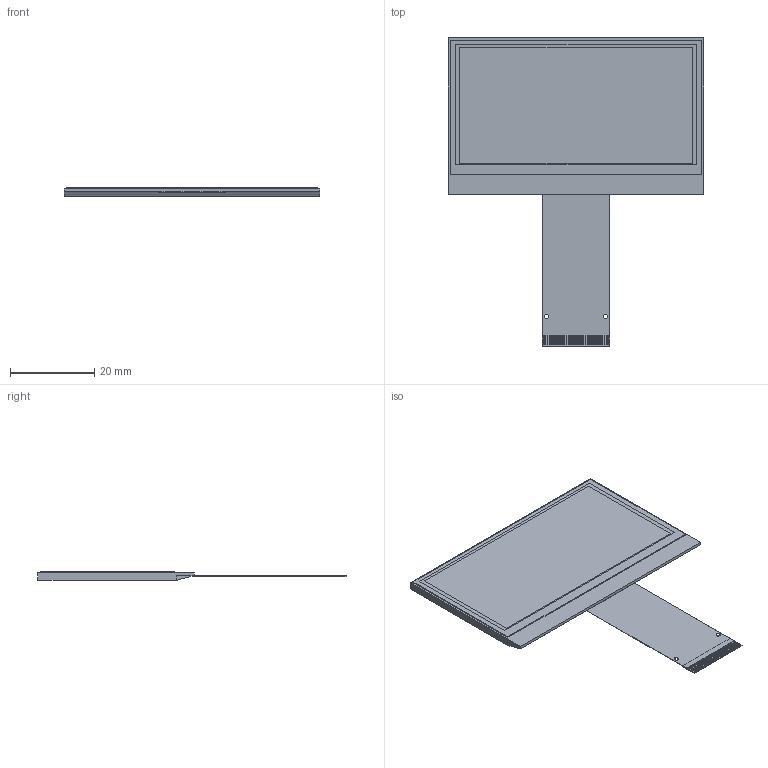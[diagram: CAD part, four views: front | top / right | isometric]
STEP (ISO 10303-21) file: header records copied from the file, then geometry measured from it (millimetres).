
FILE_DESCRIPTION (( 'STEP AP214' ), '1' );
FILE_NAME ('CFAL12864G.STEP', '2021-09-08T22:31:46', ( '' ), ( '' ), 'SwSTEP 2.0', 'SolidWorks 2021', '' );
FILE_SCHEMA (( 'AUTOMOTIVE_DESIGN' ));
Length unit declared in the file: millimetre
Products named in the file (1): CFAL12864G
Bounding box: 60.5 x 73 x 2.05 mm (x, y, z)
Volume: 4431.5 mm3; surface area: 6627 mm2
Topology: 2 solids, 2 shells, 156 faces, 453 edges, 304 vertices
Faces by surface type: plane 152, cylinder 4
Entity records: 6633 total; most frequent: CARTESIAN_POINT 914, ORIENTED_EDGE 906, DIRECTION 775, EDGE_CURVE 453, VECTOR 445, LINE 445, VERTEX_POINT 304, AXIS2_PLACEMENT_3D 165
